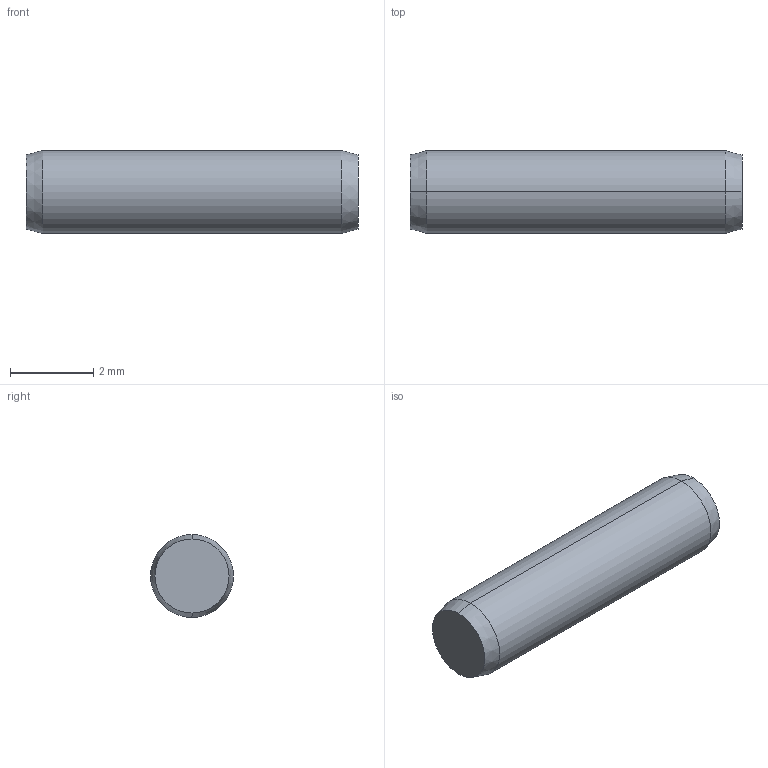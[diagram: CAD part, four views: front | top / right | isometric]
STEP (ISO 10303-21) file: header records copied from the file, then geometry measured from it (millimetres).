
FILE_DESCRIPTION (( 'STEP AP203' ), '1' );
FILE_NAME ('P1206.020-008.step', '2017-06-14T07:56:18', ( 'User' ), ( '' ), 'SwSTEP 2.0', 'SolidWorks 2009', '' );
FILE_SCHEMA (( 'CONFIG_CONTROL_DESIGN' ));
Length unit declared in the file: millimetre
Products named in the file (1): P1206.020-008
Bounding box: 8 x 2 x 2 mm (x, y, z)
Volume: 24.9 mm3; surface area: 55.2 mm2
Topology: 1 solids, 1 shells, 8 faces, 14 edges, 8 vertices
Faces by surface type: cone 4, cylinder 2, plane 2
Entity records: 271 total; most frequent: DIRECTION 40, CARTESIAN_POINT 31, ORIENTED_EDGE 28, AXIS2_PLACEMENT_3D 17, EDGE_CURVE 14, EDGE_LOOP 8, ADVANCED_FACE 8, VERTEX_POINT 8
